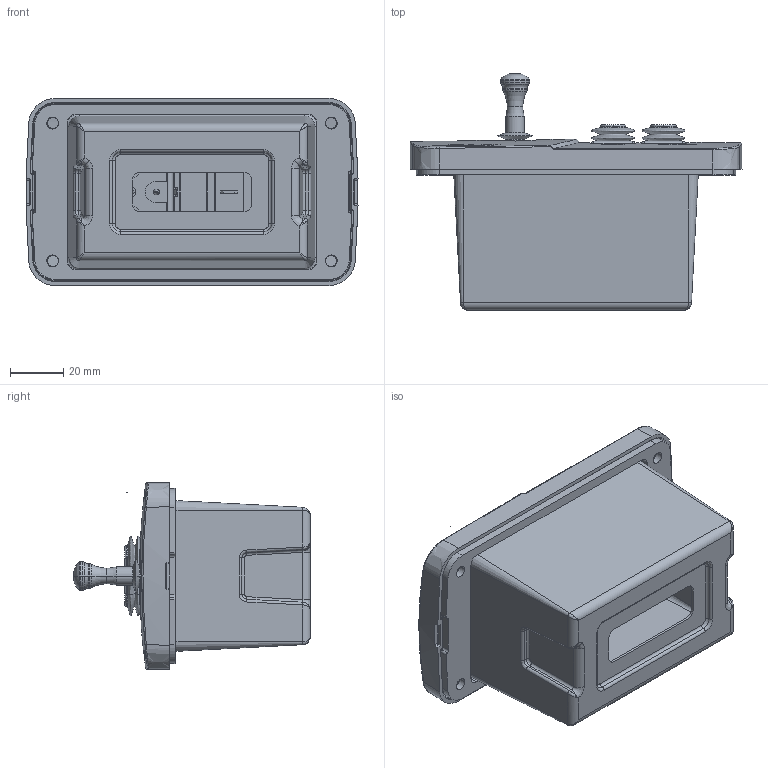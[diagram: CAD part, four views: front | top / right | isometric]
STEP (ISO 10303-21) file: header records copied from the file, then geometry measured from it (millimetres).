
FILE_DESCRIPTION (( 'STEP AP214' ), '1' );
FILE_NAME ('60585SFO.STEP', '2024-09-18T07:22:09', ( '' ), ( '' ), 'SwSTEP 2.0', 'SolidWorks 2020', '' );
FILE_SCHEMA (( 'AUTOMOTIVE_DESIGN' ));
Length unit declared in the file: millimetre
Products named in the file (9): LED-3mm orange; 60565-9.a 背蓋; LED-3mm red; 60585SFO; 60565-7H4O.a 外蓋; Joystick-final; 60565-10.a 防水墊片; IP65-001 switch; 60565-6.a 底座
Assembly tree (9 placements, depth 2):
  60585SFO
    60565-6.a 底座
    60565-7H4O.a 外蓋
    Joystick-final
    IP65-001 switch  x2
    LED-3mm red
    LED-3mm orange
    60565-9.a 背蓋
    60565-10.a 防水墊片
Bounding box: 125.24 x 89.2 x 70.61 mm (x, y, z)
Volume: 94107.8 mm3; surface area: 114660.9 mm2
Topology: 12 solids, 12 shells, 2439 faces, 6110 edges, 3768 vertices
Faces by surface type: plane 843, cylinder 671, bspline 512, torus 193, cone 180, sphere 40
Full cylindrical faces by diameter (mm): 0 x1
Entity records: 143826 total; most frequent: CARTESIAN_POINT 70645, ORIENTED_EDGE 11606, DIRECTION 9361, EDGE_CURVE 5803, VERTEX_POINT 3614, AXIS2_PLACEMENT_3D 3470, EDGE_LOOP 2559, LINE 2421
